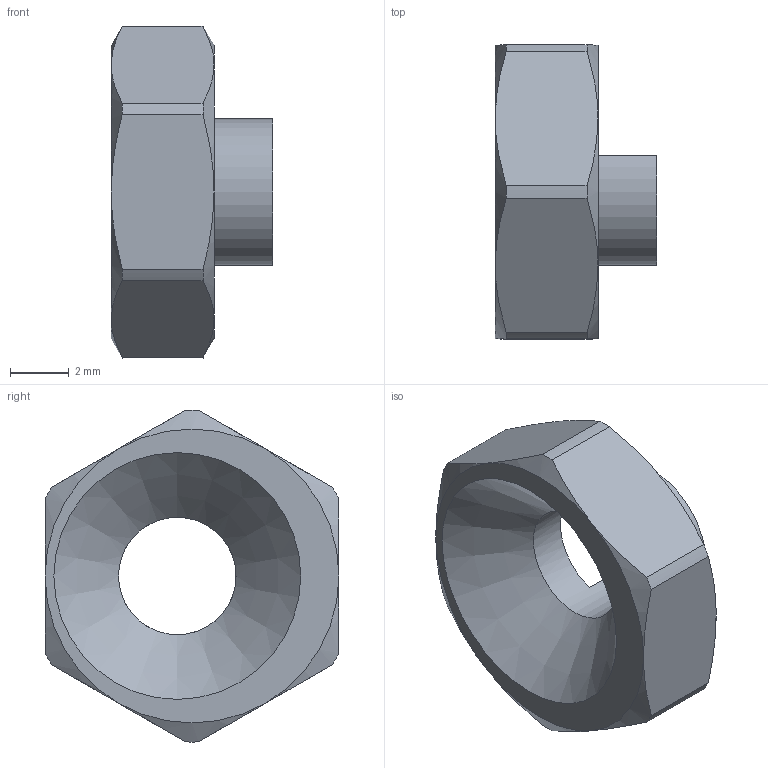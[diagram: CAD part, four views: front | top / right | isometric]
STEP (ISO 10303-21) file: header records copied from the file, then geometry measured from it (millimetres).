
FILE_DESCRIPTION(/* description */ ('STEP AP214'),/* implementation_level */ '2;1');
FILE_NAME(/* name */ 'Mounting Accessory GN 753.2-4-5-3_5-E-NI',/* time_stamp */ '2024-12-09T13:59:24+01:00',/* author */ ('License CC BY-ND 4.0'),/* organization */ ('CADENAS'),/* preprocessor_version */ 'ST-DEVELOPER v19.3',/* originating_system */ 'PARTsolutions',/* authorisation */ ' ');
FILE_SCHEMA (('AUTOMOTIVE_DESIGN {1 0 10303 214 3 1 1}'));
Length unit declared in the file: millimetre
Products named in the file (1): Mounting Accessory GN 753.2-4-5-3,5-E-NI
Bounding box: 5.5 x 10 x 11.3 mm (x, y, z)
Volume: 228 mm3; surface area: 331.1 mm2
Topology: 1 solids, 1 shells, 32 faces, 77 edges, 47 vertices
Faces by surface type: cone 13, plane 11, cylinder 8
Full cylindrical faces by diameter (mm): 4 x1
Entity records: 966 total; most frequent: CARTESIAN_POINT 225, ORIENTED_EDGE 148, DIRECTION 146, EDGE_CURVE 74, AXIS2_PLACEMENT_3D 63, VERTEX_POINT 46, EDGE_LOOP 36, FACE_BOUND 36
